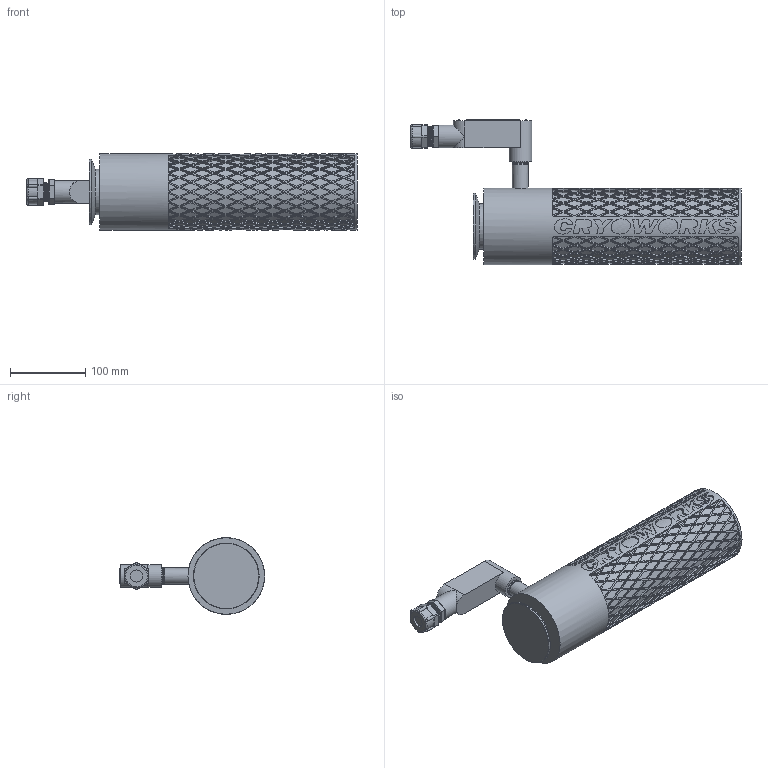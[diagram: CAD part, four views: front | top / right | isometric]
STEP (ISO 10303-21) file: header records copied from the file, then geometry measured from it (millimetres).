
FILE_DESCRIPTION (( 'STEP AP203' ), '1' );
FILE_NAME ('CA00590-TF & CA00595-TF.step', '2025-12-17T20:21:46', ( '' ), ( '' ), 'SwSTEP 2.0', 'SolidWorks 2023', '' );
FILE_SCHEMA (( 'CONFIG_CONTROL_DESIGN' ));
Products named in the file (1): CA00590-TF & CA00595-TF
Bounding box: 438.21 x 192.58 x 101.6 mm (x, y, z)
Volume: 2886716.4 mm3; surface area: 205460.5 mm2
Topology: 1 solids, 1 shells, 2079 faces, 5071 edges, 3362 vertices
Faces by surface type: plane 1557, cylinder 417, bspline 84, cone 12, torus 5, sphere 4
Full cylindrical faces by diameter (mm): 16.002 x1, 21.336 x3, 23.043 x2, 30.226 x2, 60.325 x1, 87.3 x1, 101.6 x1
Entity records: 66499 total; most frequent: CARTESIAN_POINT 26446, ORIENTED_EDGE 9980, DIRECTION 6254, EDGE_CURVE 4990, VERTEX_POINT 3323, EDGE_LOOP 2479, AXIS2_PLACEMENT_3D 2182, FACE_OUTER_BOUND 2090
